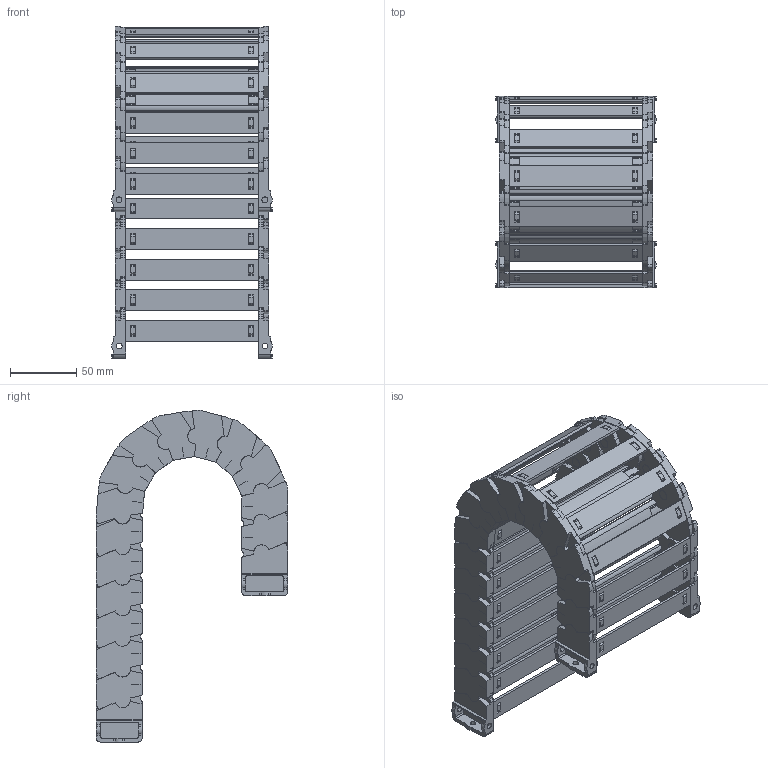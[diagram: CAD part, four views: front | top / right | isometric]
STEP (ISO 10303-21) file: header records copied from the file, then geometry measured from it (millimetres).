
FILE_DESCRIPTION((''),'2;1');
FILE_NAME('JY-25X100-R55_ASM','2026-05-07T14:05:09',('admin'),(''),'CREO PARAMETRIC BY PTC INC, 2021023','CREO PARAMETRIC BY PTC INC, 2021023','');
FILE_SCHEMA(('CONFIG_CONTROL_DESIGN'));
Length unit declared in the file: millimetre
Products named in the file (11): 25XL-L; 25-35XL-YP; 25XL-R; ASM0001_ASM; 25-LTT-A-L; 25-LTT-A-R; 25XL-LTT-A_ASM; 25-LTT-B-L; 25-LTT-B-R; 25XL-LTT-B_ASM; JY-25X100-R55_ASM
Assembly tree (29 placements, depth 3):
  JY-25X100-R55_ASM
    ASM0001_ASM  x15
      25XL-L
      25-35XL-YP
      25XL-R
    25XL-LTT-A_ASM
      25-LTT-A-L
      25-35XL-YP  x2
      25-LTT-A-R
    25XL-LTT-B_ASM
      25-LTT-B-L
      25-35XL-YP  x2
      25-LTT-B-R
Bounding box: 121.17 x 144.67 x 250.78 mm (x, y, z)
Volume: 365092 mm3; surface area: 269498.6 mm2
Topology: 68 solids, 83 shells, 3544 faces, 10581 edges, 7156 vertices
Faces by surface type: plane 2605, cylinder 909, cone 30
Entity records: 17411 total; most frequent: CARTESIAN_POINT 3067, DIRECTION 3009, ORIENTED_EDGE 2962, EDGE_CURVE 1483, VECTOR 1053, LINE 1053, VERTEX_POINT 1004, AXIS2_PLACEMENT_3D 978
